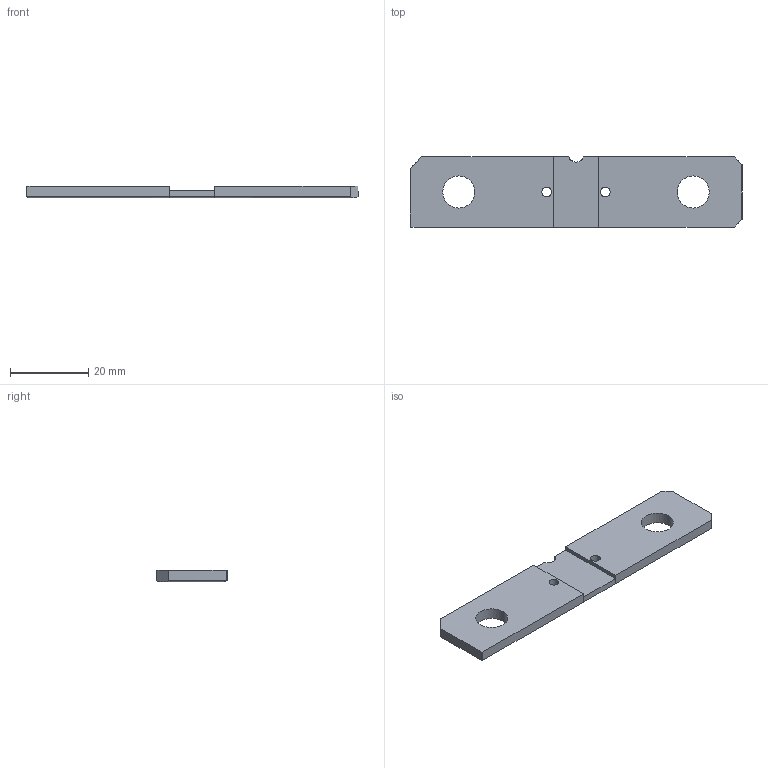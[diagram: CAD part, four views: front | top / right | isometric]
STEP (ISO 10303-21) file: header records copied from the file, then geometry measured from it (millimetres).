
FILE_DESCRIPTION (( 'STEP AP203' ), '1' );
FILE_NAME ('WSBS 8518-M3 125焜HM.STEP', '2017-04-06T19:25:21', ( '' ), ( '' ), 'SwSTEP 2.0', 'SolidWorks 2016', '' );
FILE_SCHEMA (( 'CONFIG_CONTROL_DESIGN' ));
Length unit declared in the file: inch
Products named in the file (2): WSBS 8518-M3 125焜HM
Bounding box: 84.99 x 17.98 x 3 mm (x, y, z)
Volume: 3964.6 mm3; surface area: 3565.1 mm2
Topology: 1 solids, 1 shells, 39 faces, 105 edges, 70 vertices
Faces by surface type: plane 21, cylinder 18
Entity records: 1412 total; most frequent: CARTESIAN_POINT 267, ORIENTED_EDGE 210, DIRECTION 200, EDGE_CURVE 105, VERTEX_POINT 70, AXIS2_PLACEMENT_3D 67, VECTOR 66, LINE 66
